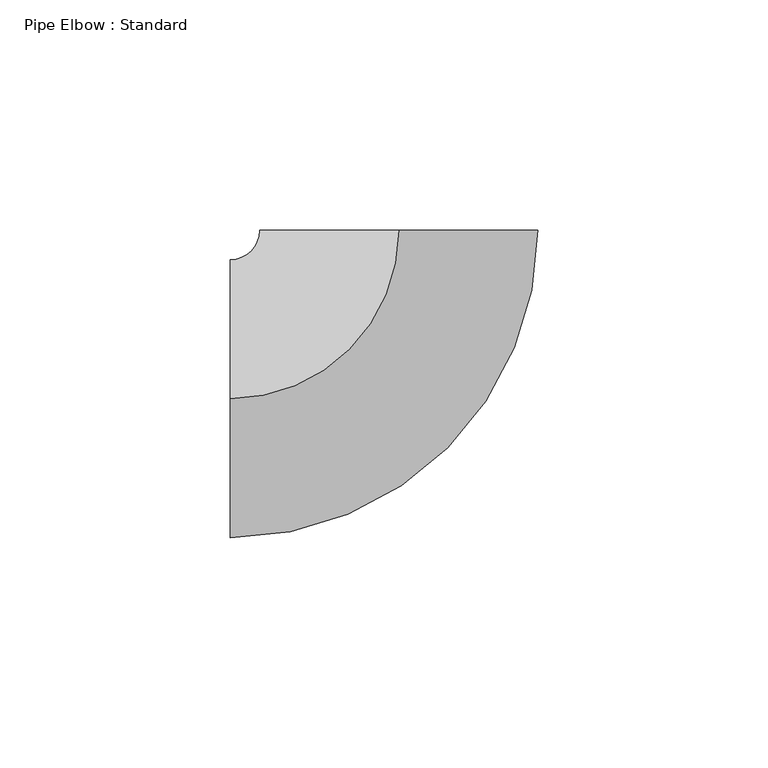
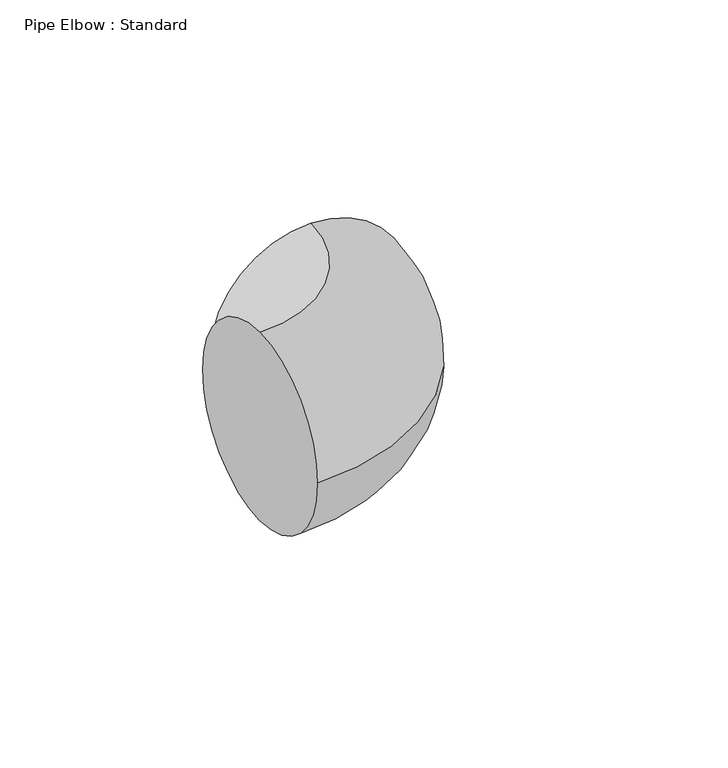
"""IFC4 building model written with IfcOpenShell, lengths in millimetres: pipe fitting geometry, Pipe Elbow : Standard."""

import ifcopenshell
import ifcopenshell.guid

model = None  # the IFC model being written
_history = None  # IfcOwnerHistory: only IFC2X3 demands one
_inside = {}  # id of a spatial element -> (the spatial element, [elements in it])
_under = {}  # id of a project, library or spatial element -> (it, [spatial elements below it])
_declared = {}  # id of a project -> (the project, [libraries it declares])
_typed = {}  # id of a type object -> (the type object, [elements of that type])
_made_of = {}  # id of a material, layer set ... -> (it, [elements and type objects made of it])


def new_model(schema):
    """Start an empty IFC model of exactly this schema.

    Asked for "IFC4X3", IfcOpenShell would pick the latest addendum, in which some entities
    have other attributes; the version numbers below select the first issue.
    IFC2X3 requires an IfcOwnerHistory on every rooted entity: one is made here for all.
    """
    global model, _history
    if schema == "IFC4X3":
        model = ifcopenshell.file(schema_version=(4, 3, 0, 0))
    else:
        model = ifcopenshell.file(schema=schema)
    _inside.clear()
    _under.clear()
    _declared.clear()
    _typed.clear()
    _made_of.clear()
    _history = None
    if model.schema == "IFC2X3":
        org = make("IfcOrganization", Name="unknown")
        user = make(
            "IfcPersonAndOrganization",
            ThePerson=make("IfcPerson", FamilyName="unknown"),
            TheOrganization=org,
        )
        app = make(
            "IfcApplication",
            ApplicationDeveloper=org,
            Version="unknown",
            ApplicationFullName="unknown",
            ApplicationIdentifier="unknown",
        )
        _history = make(
            "IfcOwnerHistory",
            OwningUser=user,
            OwningApplication=app,
            ChangeAction="ADDED",
            CreationDate=0,
        )
    return model


def make(cls, **values):
    """One entity of the class cls with the attributes given. An attribute that is None is left unset."""
    return model.create_entity(
        cls, **{name: value for name, value in values.items() if value is not None}
    )


def rooted(cls, **values):
    """An entity with a GlobalId (a new one), such as an element, a storey or a relation."""
    return make(cls, GlobalId=ifcopenshell.guid.new(), OwnerHistory=_history, **values)


def si_unit(unit_type, name, prefix=None):
    """IfcSIUnit, for example si_unit("LENGTHUNIT", "METRE", prefix="MILLI")."""
    return make("IfcSIUnit", UnitType=unit_type, Prefix=prefix, Name=name)


def assignment(units):
    """IfcUnitAssignment: the units of a project."""
    return None if units is None else make("IfcUnitAssignment", Units=units)


def point(xyz):
    """IfcCartesianPoint."""
    return None if xyz is None else make("IfcCartesianPoint", Coordinates=xyz)


def direction(xyz):
    """IfcDirection."""
    return None if xyz is None else make("IfcDirection", DirectionRatios=xyz)


def frame(location, z_axis=None, x_axis=None):
    """IfcAxis2Placement3D, a coordinate frame: its origin and axes. An axis left out is left unset."""
    return make(
        "IfcAxis2Placement3D",
        Location=point(location),
        Axis=direction(z_axis),
        RefDirection=direction(x_axis),
    )


def origin():
    """The frame at (0, 0, 0) with its axes left unset."""
    return frame((0.0, 0.0, 0.0))


def place(relative_to, where):
    """IfcLocalPlacement: puts the frame where relative to a parent placement (None: the world)."""
    return make(
        "IfcLocalPlacement", PlacementRelTo=relative_to, RelativePlacement=where
    )


def context(
    kind, dimensions, precision=None, world=None, true_north=None, identifier=None
):
    """IfcGeometricRepresentationContext, for example the 3D "Model" context."""
    return make(
        "IfcGeometricRepresentationContext",
        ContextIdentifier=identifier,
        ContextType=kind,
        CoordinateSpaceDimension=dimensions,
        Precision=precision,
        WorldCoordinateSystem=world,
        TrueNorth=true_north,
    )


def project(units=None, contexts=None):
    """IfcProject with its units and contexts."""
    return rooted(
        "IfcProject",
        Name="project",
        RepresentationContexts=contexts,
        UnitsInContext=assignment(units),
    )


def spatial(cls, under=None, at=None, **own):
    """A site, building, storey or space (cls), placed at a placement, below another one or the project."""
    s = rooted(cls, ObjectPlacement=at, **own)
    if under is not None:
        _under.setdefault(under.id(), (under, []))[1].append(s)
    return s


def circle_curve(where, radius):
    """IfcCircle in the frame where."""
    return make("IfcCircle", Position=where, Radius=radius)


def ellipse_curve(where, semi_axis1, semi_axis2):
    """IfcEllipse in the frame where."""
    return make(
        "IfcEllipse", Position=where, SemiAxis1=semi_axis1, SemiAxis2=semi_axis2
    )


def trimmed(basis, trim1, trim2, sense, master):
    """IfcTrimmedCurve: the piece of a basis curve between two trims."""
    return make(
        "IfcTrimmedCurve",
        BasisCurve=basis,
        Trim1=trim1,
        Trim2=trim2,
        SenseAgreement=sense,
        MasterRepresentation=master,
    )


def shape(context_of_items, identifier, shape_type, items):
    """IfcShapeRepresentation: the items that make up one representation, for example the "Body"."""
    return make(
        "IfcShapeRepresentation",
        ContextOfItems=context_of_items,
        RepresentationIdentifier=identifier,
        RepresentationType=shape_type,
        Items=items,
    )


def source(mapping_origin, context_of_items, identifier, shape_type, items):
    """IfcRepresentationMap: a shape defined once, which mapped items show again and again."""
    return make(
        "IfcRepresentationMap",
        MappingOrigin=mapping_origin,
        MappedRepresentation=shape(context_of_items, identifier, shape_type, items),
    )


def transform(
    local_origin,
    x_axis=None,
    y_axis=None,
    z_axis=None,
    scale=None,
    scale2=None,
    scale3=None,
    uniform=True,
):
    """IfcCartesianTransformationOperator3D, or its non-uniform kind. x_axis, y_axis, z_axis: its Axis1, 2, 3."""
    if uniform:
        return make(
            "IfcCartesianTransformationOperator3D",
            Axis1=direction(x_axis),
            Axis2=direction(y_axis),
            LocalOrigin=point(local_origin),
            Scale=scale,
            Axis3=direction(z_axis),
        )
    return make(
        "IfcCartesianTransformationOperator3DnonUniform",
        Axis1=direction(x_axis),
        Axis2=direction(y_axis),
        LocalOrigin=point(local_origin),
        Scale=scale,
        Axis3=direction(z_axis),
        Scale2=scale2,
        Scale3=scale3,
    )


def mapped(mapping_source, mapping_target):
    """IfcMappedItem: shows the shape of a source again, moved by a transform."""
    return make(
        "IfcMappedItem", MappingSource=mapping_source, MappingTarget=mapping_target
    )


def made_of(thing, what):
    """Note that an element or type object is made of a material, layer set ...; save() writes the relation."""
    if what is not None:
        _made_of.setdefault(what.id(), (what, []))[1].append(thing)
    return thing


def element(
    cls,
    number,
    at=None,
    inside=None,
    cuts=None,
    type_object=None,
    material=None,
    context=None,
    identifier="Body",
    shape_type=None,
    held_by="IfcProductDefinitionShape",
    body=None,
    shapes=None,
    **own,
):
    """One element of the class cls, such as IfcWall. Its Tag is "e" and its number.

    at: its placement. inside: the storey or other place that contains it. cuts: it is an
    opening in that element (IfcRelVoidsElement). A single representation is given by context,
    identifier, shape_type and body (its items); several are given by shapes. held_by: the class
    of the entity that holds the representations. save() writes the other relations.
    """
    e = rooted(cls, Tag="e%d" % number, ObjectPlacement=at, **own)
    if body is not None:
        shapes = [shape(context, identifier, shape_type, body)]
    if shapes is not None:
        e.Representation = make(held_by, Representations=shapes)
    if inside is not None:
        _inside.setdefault(inside.id(), (inside, []))[1].append(e)
    if cuts is not None:
        rooted(
            "IfcRelVoidsElement", RelatingBuildingElement=cuts, RelatedOpeningElement=e
        )
    if type_object is not None:
        _typed.setdefault(type_object.id(), (type_object, []))[1].append(e)
    return made_of(e, material)


def aggregate(whole, parts):
    """IfcRelAggregates: a whole, such as a stair, and the parts it consists of."""
    return rooted("IfcRelAggregates", RelatingObject=whole, RelatedObjects=parts)


def save(model, path):
    """Write the relations noted so far, then the file.

    IfcRelAggregates (storeys below a building ...), IfcRelContainedInSpatialStructure (elements
    in a storey), IfcRelDefinesByType, IfcRelAssociatesMaterial and IfcRelDeclares: one each for
    every whole, place, type object, material and project.
    """
    for whole, parts in _under.values():
        aggregate(whole, parts)
    for where, things in _inside.values():
        rooted(
            "IfcRelContainedInSpatialStructure",
            RelatedElements=things,
            RelatingStructure=where,
        )
    for kind, things in _typed.values():
        rooted("IfcRelDefinesByType", RelatedObjects=things, RelatingType=kind)
    for what, things in _made_of.values():
        rooted("IfcRelAssociatesMaterial", RelatedObjects=things, RelatingMaterial=what)
    for by, libraries in _declared.values():
        rooted("IfcRelDeclares", RelatingContext=by, RelatedDefinitions=libraries)
    model.write(path)


def plane_surface(at):
    """IfcPlane: the flat surface through the origin of the frame at, square to its z axis."""
    return make("IfcPlane", Position=at)


def revolved_surface(curve, axis_point, axis_direction):
    """IfcSurfaceOfRevolution: the curve turned about the line through axis_point along axis_direction."""
    return make(
        "IfcSurfaceOfRevolution",
        SweptCurve=make("IfcArbitraryOpenProfileDef", ProfileType="CURVE", Curve=curve),
        AxisPosition=make("IfcAxis1Placement", Location=point(axis_point), Axis=direction(axis_direction)),
    )


def advanced_brep(points, edges, surfaces, faces):
    """IfcAdvancedBrep: a solid bounded by faces that lie on surfaces and meet in shared edges.

    An edge is (start, end): straight between two places in points (the first is 0);
    or (start, end, curve); or (start, end, curve, False) where it runs against its curve.
    A face is (place in surfaces, loops), or (place, loops, False) where it looks against
    its surface's normal. A loop lists edges by number (the first is 1), with a minus sign
    where the edge is run from its end to its start. The first loop is the outer one.
    """
    corners = [point(p) for p in points]
    vertices = [make("IfcVertexPoint", VertexGeometry=c) for c in corners]
    made = []
    for start, end, *more in edges:
        made.append(
            make(
                "IfcEdgeCurve",
                EdgeStart=vertices[start],
                EdgeEnd=vertices[end],
                EdgeGeometry=more[0] if more else make("IfcPolyline", Points=[corners[start], corners[end]]),
                SameSense=more[1] if len(more) > 1 else True,
            )
        )
    hull = []
    for where, loops, *sense in faces:
        bounds = []
        for j, loop in enumerate(loops):
            ring = [make("IfcOrientedEdge", EdgeElement=made[abs(k) - 1], Orientation=k > 0) for k in loop]
            bounds.append(
                make(
                    "IfcFaceOuterBound" if j == 0 else "IfcFaceBound",
                    Bound=make("IfcEdgeLoop", EdgeList=ring),
                    Orientation=True,
                )
            )
        hull.append(make("IfcAdvancedFace", Bounds=bounds, FaceSurface=surfaces[where], SameSense=sense[0] if sense else True))
    return make("IfcAdvancedBrep", Outer=make("IfcClosedShell", CfsFaces=hull))


def pipe_elbow_standard_46078d03(model_context):
    return source(origin(), model_context, "Body", "AdvancedBrep", [
        advanced_brep(
        [(-36.5081458, 0.0, 30.1625), (-36.5081458, 30.1625, 0.0), (-36.5081458, 0.0, -30.1625), (-36.5081458, -30.1625, 0.0), (0.0043539, 36.5081455, 30.1625), (30.1668537, 36.5045484, 0.0), (0.0043539, 36.5081455, -30.1625), (-30.1581458, 36.5117427, 0.0)],
        [
            (0, 1, circle_curve(frame((-36.5081458, 0.0, 0.0), z_axis=(-1.0, 0.0, 0.0), x_axis=(0.0, 1.0, 0.0)), 30.1625)),
            (1, 2, circle_curve(frame((-36.5081458, 0.0, 0.0), z_axis=(-1.0, 0.0, 0.0), x_axis=(0.0, 1.0, 0.0)), 30.1625)),
            (2, 3, circle_curve(frame((-36.5081458, 0.0, 0.0), z_axis=(-1.0, 0.0, 0.0), x_axis=(0.0, 1.0, 0.0)), 30.1625)),
            (3, 0, circle_curve(frame((-36.5081458, 0.0, 0.0), z_axis=(-1.0, 0.0, 0.0), x_axis=(0.0, 1.0, 0.0)), 30.1625)),
            (4, 5, circle_curve(frame((0.0043539, 36.5081455, 0.0), z_axis=(0.00011925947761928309, 0.9999999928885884, 0.0), x_axis=(-0.9999999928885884, 0.00011925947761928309, 0.0)), 30.1625)),
            (5, 6, circle_curve(frame((0.0043539, 36.5081455, 0.0), z_axis=(0.00011925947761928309, 0.9999999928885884, 0.0), x_axis=(-0.9999999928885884, 0.00011925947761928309, 0.0)), 30.1625)),
            (6, 7, circle_curve(frame((0.0043539, 36.5081455, 0.0), z_axis=(0.00011925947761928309, 0.9999999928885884, 0.0), x_axis=(-0.9999999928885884, 0.00011925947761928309, 0.0)), 30.1625)),
            (7, 4, circle_curve(frame((0.0043539, 36.5081455, 0.0), z_axis=(0.00011925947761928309, 0.9999999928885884, 0.0), x_axis=(-0.9999999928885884, 0.00011925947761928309, 0.0)), 30.1625)),
            (7, 1, circle_curve(frame((-36.5081458, 36.5125, 0.0), z_axis=(0.0, 0.0, -1.0), x_axis=(0.0, -1.0, 0.0)), 6.35)),
            (0, 4, circle_curve(frame((-36.5081458, 36.5125, 30.1625), z_axis=(0.0, 0.0, 1.0), x_axis=(0.0, -1.0, 0.0)), 36.5125)),
            (6, 2, circle_curve(frame((-36.5081458, 36.5125, -30.1625), z_axis=(0.0, 0.0, -1.0), x_axis=(0.0, -1.0, 0.0)), 36.5125)),
            (5, 3, circle_curve(frame((-36.5081458, 36.5125, 0.0), z_axis=(0.0, 0.0, -1.0), x_axis=(0.0, -1.0, 0.0)), 66.675)),
        ],
        [
            plane_surface(frame((-36.5081458, 0.0, 0.0), z_axis=(-1.0, 0.0, 0.0), x_axis=(0.0, 0.0, 1.0))),
            plane_surface(frame((0.0043539, 36.5081455, 0.0), z_axis=(0.00011925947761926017, 0.9999999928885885, 0.0), x_axis=(0.0, 0.0, 1.0))),
            revolved_surface(trimmed(ellipse_curve(frame((-36.5081458, 0.0, 0.0), z_axis=(-1.0, 0.0, 0.0), x_axis=(0.0, 1.0, 0.0)), 30.1625, 30.1625), [point((-36.5081458, 0.0, 30.1625))], [point((-36.5081458, 30.1625, 0.0))], True, "CARTESIAN"), (-36.5081458, 36.5125, 0.0), (0.0, 0.0, 1.0)),
            revolved_surface(trimmed(ellipse_curve(frame((-36.5081458, 0.0, 0.0), z_axis=(-1.0, 0.0, 0.0), x_axis=(0.0, 1.0, 0.0)), 30.1625, 30.1625), [point((-36.5081458, 30.1625, 0.0))], [point((-36.5081458, 0.0, -30.1625))], True, "CARTESIAN"), (-36.5081458, 36.5125, 0.0), (0.0, 0.0, 1.0)),
            revolved_surface(trimmed(ellipse_curve(frame((-36.5081458, 0.0, 0.0), z_axis=(-1.0, 0.0, 0.0), x_axis=(0.0, 1.0, 0.0)), 30.1625, 30.1625), [point((-36.5081458, 0.0, -30.1625))], [point((-36.5081458, -30.1625, 0.0))], True, "CARTESIAN"), (-36.5081458, 36.5125, 0.0), (0.0, 0.0, 1.0)),
            revolved_surface(trimmed(ellipse_curve(frame((-36.5081458, 0.0, 0.0), z_axis=(-1.0, 0.0, 0.0), x_axis=(0.0, 1.0, 0.0)), 30.1625, 30.1625), [point((-36.5081458, -30.1625, 0.0))], [point((-36.5081458, 0.0, 30.1625))], True, "CARTESIAN"), (-36.5081458, 36.5125, 0.0), (0.0, 0.0, 1.0)),
        ],
        [
            (0, [[1, 2, 3, 4]]),
            (1, [[5, 6, 7, 8]]),
            (2, [[9, -1, 10, -8]]),
            (3, [[11, -2, -9, -7]]),
            (4, [[12, -3, -11, -6]]),
            (5, [[-10, -4, -12, -5]]),
        ],
    ),
        advanced_brep(
        [(-36.5081458, 0.0, 30.1625), (-36.5081458, 30.1625, 0.0), (-36.5081458, 0.0, -30.1625), (-36.5081458, -30.1625, 0.0), (0.0043539, 36.5081455, 30.1625), (30.1668537, 36.5045484, 0.0), (0.0043539, 36.5081455, -30.1625), (-30.1581458, 36.5117427, 0.0)],
        [
            (0, 1, circle_curve(frame((-36.5081458, 0.0, 0.0), z_axis=(-1.0, 0.0, 0.0), x_axis=(0.0, 1.0, 0.0)), 30.1625)),
            (1, 2, circle_curve(frame((-36.5081458, 0.0, 0.0), z_axis=(-1.0, 0.0, 0.0), x_axis=(0.0, 1.0, 0.0)), 30.1625)),
            (2, 3, circle_curve(frame((-36.5081458, 0.0, 0.0), z_axis=(-1.0, 0.0, 0.0), x_axis=(0.0, 1.0, 0.0)), 30.1625)),
            (3, 0, circle_curve(frame((-36.5081458, 0.0, 0.0), z_axis=(-1.0, 0.0, 0.0), x_axis=(0.0, 1.0, 0.0)), 30.1625)),
            (4, 5, circle_curve(frame((0.0043539, 36.5081455, 0.0), z_axis=(0.00011925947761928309, 0.9999999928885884, 0.0), x_axis=(-0.9999999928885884, 0.00011925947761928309, 0.0)), 30.1625)),
            (5, 6, circle_curve(frame((0.0043539, 36.5081455, 0.0), z_axis=(0.00011925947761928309, 0.9999999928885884, 0.0), x_axis=(-0.9999999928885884, 0.00011925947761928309, 0.0)), 30.1625)),
            (6, 7, circle_curve(frame((0.0043539, 36.5081455, 0.0), z_axis=(0.00011925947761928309, 0.9999999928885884, 0.0), x_axis=(-0.9999999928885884, 0.00011925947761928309, 0.0)), 30.1625)),
            (7, 4, circle_curve(frame((0.0043539, 36.5081455, 0.0), z_axis=(0.00011925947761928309, 0.9999999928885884, 0.0), x_axis=(-0.9999999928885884, 0.00011925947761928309, 0.0)), 30.1625)),
            (7, 1, circle_curve(frame((-36.5081458, 36.5125, 0.0), z_axis=(0.0, 0.0, -1.0), x_axis=(0.0, -1.0, 0.0)), 6.35)),
            (0, 4, circle_curve(frame((-36.5081458, 36.5125, 30.1625), z_axis=(0.0, 0.0, 1.0), x_axis=(0.0, -1.0, 0.0)), 36.5125)),
            (6, 2, circle_curve(frame((-36.5081458, 36.5125, -30.1625), z_axis=(0.0, 0.0, -1.0), x_axis=(0.0, -1.0, 0.0)), 36.5125)),
            (5, 3, circle_curve(frame((-36.5081458, 36.5125, 0.0), z_axis=(0.0, 0.0, -1.0), x_axis=(0.0, -1.0, 0.0)), 66.675)),
        ],
        [
            plane_surface(frame((-36.5081458, 0.0, 0.0), z_axis=(-1.0, 0.0, 0.0), x_axis=(0.0, 0.0, 1.0))),
            plane_surface(frame((0.0043539, 36.5081455, 0.0), z_axis=(0.00011925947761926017, 0.9999999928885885, 0.0), x_axis=(0.0, 0.0, 1.0))),
            revolved_surface(trimmed(ellipse_curve(frame((-36.5081458, 0.0, 0.0), z_axis=(-1.0, 0.0, 0.0), x_axis=(0.0, 1.0, 0.0)), 30.1625, 30.1625), [point((-36.5081458, 0.0, 30.1625))], [point((-36.5081458, 30.1625, 0.0))], True, "CARTESIAN"), (-36.5081458, 36.5125, 0.0), (0.0, 0.0, 1.0)),
            revolved_surface(trimmed(ellipse_curve(frame((-36.5081458, 0.0, 0.0), z_axis=(-1.0, 0.0, 0.0), x_axis=(0.0, 1.0, 0.0)), 30.1625, 30.1625), [point((-36.5081458, 30.1625, 0.0))], [point((-36.5081458, 0.0, -30.1625))], True, "CARTESIAN"), (-36.5081458, 36.5125, 0.0), (0.0, 0.0, 1.0)),
            revolved_surface(trimmed(ellipse_curve(frame((-36.5081458, 0.0, 0.0), z_axis=(-1.0, 0.0, 0.0), x_axis=(0.0, 1.0, 0.0)), 30.1625, 30.1625), [point((-36.5081458, 0.0, -30.1625))], [point((-36.5081458, -30.1625, 0.0))], True, "CARTESIAN"), (-36.5081458, 36.5125, 0.0), (0.0, 0.0, 1.0)),
            revolved_surface(trimmed(ellipse_curve(frame((-36.5081458, 0.0, 0.0), z_axis=(-1.0, 0.0, 0.0), x_axis=(0.0, 1.0, 0.0)), 30.1625, 30.1625), [point((-36.5081458, -30.1625, 0.0))], [point((-36.5081458, 0.0, 30.1625))], True, "CARTESIAN"), (-36.5081458, 36.5125, 0.0), (0.0, 0.0, 1.0)),
        ],
        [
            (0, [[1, 2, 3, 4]]),
            (1, [[5, 6, 7, 8]]),
            (2, [[9, -1, 10, -8]]),
            (3, [[11, -2, -9, -7]]),
            (4, [[12, -3, -11, -6]]),
            (5, [[-10, -4, -12, -5]]),
        ],
    ),
    ])


if __name__ == "__main__":
    model = new_model("IFC4")
    model_context = context("Model", 3, world=origin())
    ifc_project = project(units=[si_unit("LENGTHUNIT", "METRE", prefix="MILLI")], contexts=[model_context])
    site = spatial("IfcSite", under=ifc_project)
    building = spatial("IfcBuilding", under=site)
    placement = place(None, origin())
    pipe_elbow_standard_shape = pipe_elbow_standard_46078d03(model_context)
    element("IfcPipeFitting", 1, ObjectType="Pipe Elbow : Standard", at=placement, inside=building, context=model_context, shape_type="MappedRepresentation", body=[
        mapped(pipe_elbow_standard_shape, transform((0.0, 0.0, 0.0), x_axis=(1.0, 0.0, 0.0), y_axis=(0.0, 1.0, 0.0), z_axis=(0.0, 0.0, 1.0))),
    ])
    save(model, "model.ifc")
